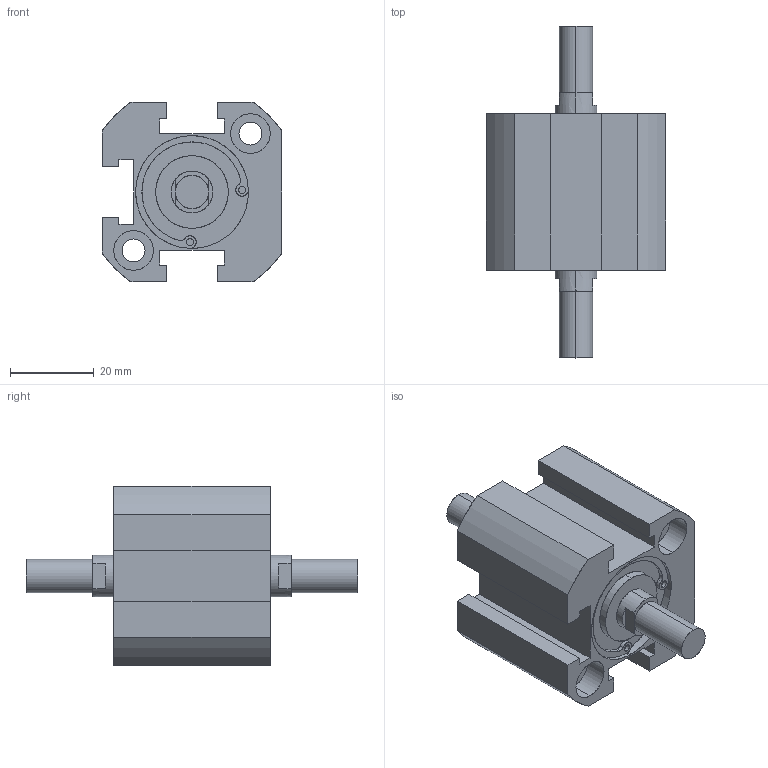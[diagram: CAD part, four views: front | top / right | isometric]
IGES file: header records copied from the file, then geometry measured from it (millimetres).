
Start section: SolidWorks IGES file using analytic representation for surfaces
Global section: file name: C:\Users\Toshiba\Desktop\XC#M7-25D-10.IGS; native system: SolidWorks 2014; preprocessor: SolidWorks 2014; author: Toshiba; date: 160523.165554; units: millimetre
Bounding box: 43 x 79.5 x 43 mm (x, y, z)
Surface area: 14777.3 mm2 (no closed solid volume)
Topology: 0 solids, 0 shells, 127 faces, 1962 edges, 1958 vertices
Faces by surface type: revolution 69, bspline 58
